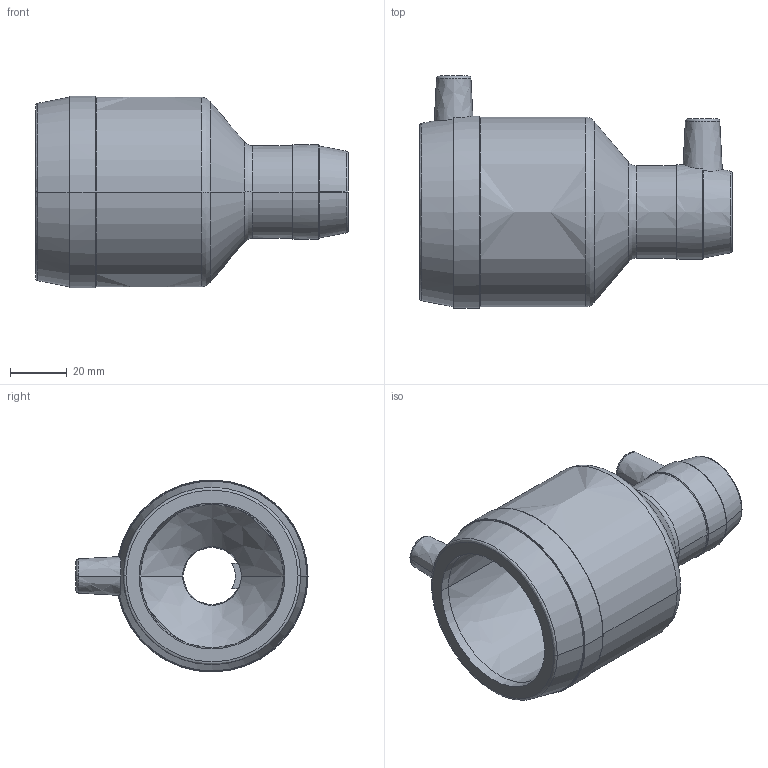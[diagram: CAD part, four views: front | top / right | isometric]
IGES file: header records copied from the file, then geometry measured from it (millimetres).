
Start section:  PTC IGES file: mr_d050-020_01.igs
Global section: file name: mr_d050-020_01.igs; native system: Pro/ENGINEER by Parametric Technology Corporation; preprocessor: 2011490; author: mtunjic; organization: Unknown; date: 20130816.153818; units: millimetre
Bounding box: 110 x 81.58 x 67.5 mm (x, y, z)
Surface area: 36018.3 mm2 (no closed solid volume)
Topology: 0 solids, 0 shells, 184 faces, 926 edges, 926 vertices
Faces by surface type: bspline 184
